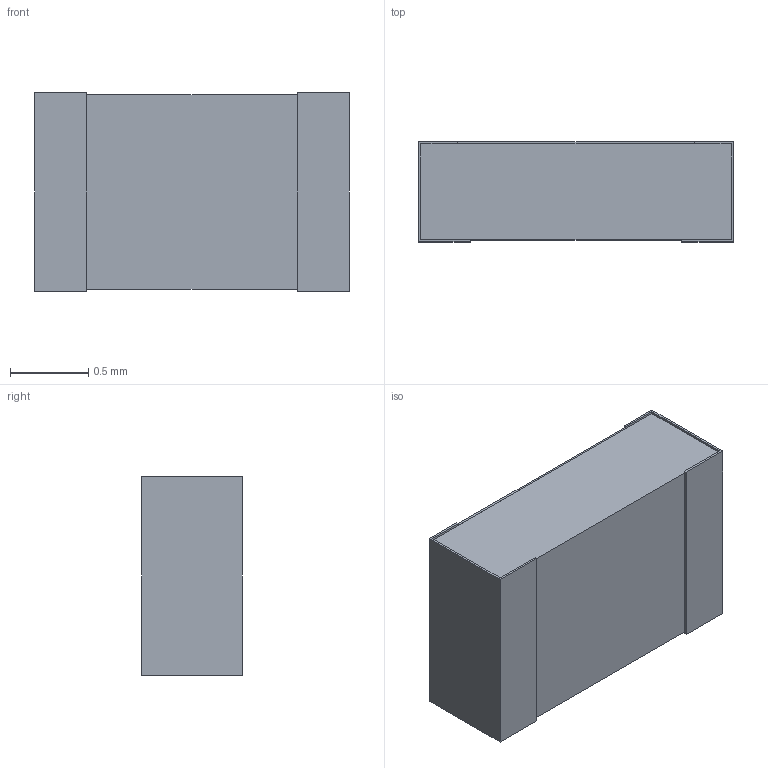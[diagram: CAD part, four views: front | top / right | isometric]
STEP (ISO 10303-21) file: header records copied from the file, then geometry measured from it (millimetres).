
FILE_DESCRIPTION(/* description */ (''),/* implementation_level */ '2;1');
FILE_NAME(/* name */ 'C:\Users\mulla\Documents\Work\SEI Models\Inventor Files\HVC\HVC0805_stp.stp',/* time_stamp */ '2021-07-26T17:30:54-04:00',/* author */ ('mulla'),/* organization */ (''),/* preprocessor_version */ 'ST-DEVELOPER v16.1',/* originating_system */ 'Autodesk Inventor 2016',/* authorisation */ '');
FILE_SCHEMA (('AUTOMOTIVE_DESIGN { 1 0 10303 214 3 1 1 }'));
Length unit declared in the file: millimetre
Products named in the file (1): HVC0805
Bounding box: 2.01 x 0.64 x 1.27 mm (x, y, z)
Volume: 1.6 mm3; surface area: 18.9 mm2
Topology: 4 solids, 4 shells, 32 faces, 72 edges, 48 vertices
Faces by surface type: plane 32
Entity records: 950 total; most frequent: CARTESIAN_POINT 153, ORIENTED_EDGE 144, DIRECTION 138, LINE 72, VECTOR 72, EDGE_CURVE 72, VERTEX_POINT 48, STYLED_ITEM 36
